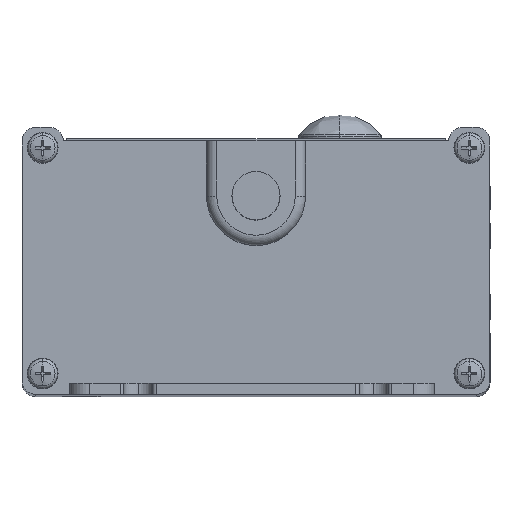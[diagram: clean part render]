
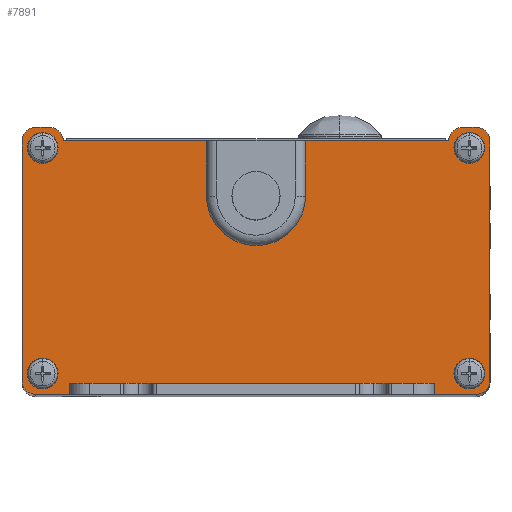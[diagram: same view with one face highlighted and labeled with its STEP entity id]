
A CAD part, top view. The second image highlights one B-rep face of the part: STEP entity #7891.
In plain terms, the highlighted planar face has unit normal (0, 0, 1).
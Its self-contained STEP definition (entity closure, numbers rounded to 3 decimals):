
#6936=DIRECTION('',(1.,0.,0.));
#6937=VECTOR('',#6936,22.25);
#6938=CARTESIAN_POINT('',(5.75,8.,1.6));
#6939=LINE('',#6938,#6937);
#6940=CARTESIAN_POINT('',(30.,8.,1.6));
#6941=DIRECTION('',(0.,0.,-1.));
#6942=DIRECTION('',(-1.,0.,0.));
#6943=AXIS2_PLACEMENT_3D('',#6940,#6941,#6942);
#6945=DIRECTION('',(1.,0.,0.));
#6946=VECTOR('',#6945,2.);
#6947=CARTESIAN_POINT('',(30.,10.,1.6));
#6948=LINE('',#6947,#6946);
#6949=CARTESIAN_POINT('',(32.,8.,1.6));
#6950=DIRECTION('',(0.,0.,-1.));
#6951=DIRECTION('',(0.,1.,0.));
#6952=AXIS2_PLACEMENT_3D('',#6949,#6950,#6951);
#6954=DIRECTION('',(0.,-1.,0.));
#6955=VECTOR('',#6954,34.8);
#6956=CARTESIAN_POINT('',(34.,8.,1.6));
#6957=LINE('',#6956,#6955);
#6958=CARTESIAN_POINT('',(32.,-26.8,1.6));
#6959=DIRECTION('',(0.,0.,-1.));
#6960=DIRECTION('',(1.,0.,0.));
#6961=AXIS2_PLACEMENT_3D('',#6958,#6959,#6960);
#6963=DIRECTION('',(-1.,0.,0.));
#6964=VECTOR('',#6963,6.125);
#6965=CARTESIAN_POINT('',(32.,-28.8,1.6));
#6966=LINE('',#6965,#6964);
#6967=DIRECTION('',(0.,1.,0.));
#6968=VECTOR('',#6967,1.6);
#6969=CARTESIAN_POINT('',(25.875,-28.8,1.6));
#6970=LINE('',#6969,#6968);
#6971=DIRECTION('',(-1.,0.,0.));
#6972=VECTOR('',#6971,53.);
#6973=CARTESIAN_POINT('',(25.875,-27.2,1.6));
#6974=LINE('',#6973,#6972);
#6975=DIRECTION('',(0.,-1.,0.));
#6976=VECTOR('',#6975,1.6);
#6977=CARTESIAN_POINT('',(-27.125,-27.2,1.6));
#6978=LINE('',#6977,#6976);
#6979=DIRECTION('',(-1.,0.,0.));
#6980=VECTOR('',#6979,4.875);
#6981=CARTESIAN_POINT('',(-27.125,-28.8,1.6));
#6982=LINE('',#6981,#6980);
#6983=CARTESIAN_POINT('',(-32.,-26.8,1.6));
#6984=DIRECTION('',(0.,0.,-1.));
#6985=DIRECTION('',(0.,-1.,0.));
#6986=AXIS2_PLACEMENT_3D('',#6983,#6984,#6985);
#6988=DIRECTION('',(0.,1.,0.));
#6989=VECTOR('',#6988,34.8);
#6990=CARTESIAN_POINT('',(-34.,-26.8,1.6));
#6991=LINE('',#6990,#6989);
#6992=CARTESIAN_POINT('',(-32.,8.,1.6));
#6993=DIRECTION('',(0.,0.,-1.));
#6994=DIRECTION('',(-1.,0.,0.));
#6995=AXIS2_PLACEMENT_3D('',#6992,#6993,#6994);
#6997=DIRECTION('',(1.,0.,0.));
#6998=VECTOR('',#6997,2.);
#6999=CARTESIAN_POINT('',(-32.,10.,1.6));
#7000=LINE('',#6999,#6998);
#7001=CARTESIAN_POINT('',(-30.,8.,1.6));
#7002=DIRECTION('',(0.,0.,-1.));
#7003=DIRECTION('',(0.,1.,0.));
#7004=AXIS2_PLACEMENT_3D('',#7001,#7002,#7003);
#7006=DIRECTION('',(1.,0.,0.));
#7007=VECTOR('',#7006,22.25);
#7008=CARTESIAN_POINT('',(-28.,8.,1.6));
#7009=LINE('',#7008,#7007);
#7010=CARTESIAN_POINT('',(-5.75,7.5,1.6));
#7011=DIRECTION('',(0.,0.,-1.));
#7012=DIRECTION('',(0.,1.,0.));
#7013=AXIS2_PLACEMENT_3D('',#7010,#7011,#7012);
#7015=DIRECTION('',(0.,-1.,0.));
#7016=VECTOR('',#7015,7.5);
#7017=CARTESIAN_POINT('',(-5.25,7.5,1.6));
#7018=LINE('',#7017,#7016);
#7019=CARTESIAN_POINT('',(0.,0.,1.6));
#7020=DIRECTION('',(0.,0.,1.));
#7021=DIRECTION('',(-1.,0.,0.));
#7022=AXIS2_PLACEMENT_3D('',#7019,#7020,#7021);
#7024=DIRECTION('',(0.,1.,0.));
#7025=VECTOR('',#7024,7.5);
#7026=CARTESIAN_POINT('',(5.25,0.,1.6));
#7027=LINE('',#7026,#7025);
#7028=CARTESIAN_POINT('',(5.75,7.5,1.6));
#7029=DIRECTION('',(0.,0.,-1.));
#7030=DIRECTION('',(-1.,0.,0.));
#7031=AXIS2_PLACEMENT_3D('',#7028,#7029,#7030);
#7033=CARTESIAN_POINT('',(31.,-25.8,1.6));
#7034=DIRECTION('',(0.,0.,1.));
#7035=DIRECTION('',(-1.,0.,0.));
#7036=AXIS2_PLACEMENT_3D('',#7033,#7034,#7035);
#7038=CARTESIAN_POINT('',(31.,-25.8,1.6));
#7039=DIRECTION('',(0.,0.,1.));
#7040=DIRECTION('',(1.,0.,0.));
#7041=AXIS2_PLACEMENT_3D('',#7038,#7039,#7040);
#7043=CARTESIAN_POINT('',(-31.,7.,1.6));
#7044=DIRECTION('',(0.,0.,1.));
#7045=DIRECTION('',(-1.,0.,0.));
#7046=AXIS2_PLACEMENT_3D('',#7043,#7044,#7045);
#7048=CARTESIAN_POINT('',(-31.,7.,1.6));
#7049=DIRECTION('',(0.,0.,1.));
#7050=DIRECTION('',(1.,0.,0.));
#7051=AXIS2_PLACEMENT_3D('',#7048,#7049,#7050);
#7053=CARTESIAN_POINT('',(-31.,-25.8,1.6));
#7054=DIRECTION('',(0.,0.,1.));
#7055=DIRECTION('',(-1.,0.,0.));
#7056=AXIS2_PLACEMENT_3D('',#7053,#7054,#7055);
#7058=CARTESIAN_POINT('',(-31.,-25.8,1.6));
#7059=DIRECTION('',(0.,0.,1.));
#7060=DIRECTION('',(1.,0.,0.));
#7061=AXIS2_PLACEMENT_3D('',#7058,#7059,#7060);
#7063=CARTESIAN_POINT('',(31.,7.,1.6));
#7064=DIRECTION('',(0.,0.,1.));
#7065=DIRECTION('',(-1.,0.,0.));
#7066=AXIS2_PLACEMENT_3D('',#7063,#7064,#7065);
#7068=CARTESIAN_POINT('',(31.,7.,1.6));
#7069=DIRECTION('',(0.,0.,1.));
#7070=DIRECTION('',(1.,0.,0.));
#7071=AXIS2_PLACEMENT_3D('',#7068,#7069,#7070);
#7540=CARTESIAN_POINT('',(25.875,-27.2,1.6));
#7541=CARTESIAN_POINT('',(-27.125,-27.2,1.6));
#7542=VERTEX_POINT('',#7540);
#7543=VERTEX_POINT('',#7541);
#7588=CARTESIAN_POINT('',(5.75,8.,1.6));
#7589=CARTESIAN_POINT('',(28.,8.,1.6));
#7590=VERTEX_POINT('',#7588);
#7591=VERTEX_POINT('',#7589);
#7592=CARTESIAN_POINT('',(30.,10.,1.6));
#7593=VERTEX_POINT('',#7592);
#7594=CARTESIAN_POINT('',(32.,10.,1.6));
#7595=VERTEX_POINT('',#7594);
#7596=CARTESIAN_POINT('',(34.,8.,1.6));
#7597=VERTEX_POINT('',#7596);
#7598=CARTESIAN_POINT('',(34.,-26.8,1.6));
#7599=VERTEX_POINT('',#7598);
#7600=CARTESIAN_POINT('',(32.,-28.8,1.6));
#7601=VERTEX_POINT('',#7600);
#7602=CARTESIAN_POINT('',(25.875,-28.8,1.6));
#7603=VERTEX_POINT('',#7602);
#7604=CARTESIAN_POINT('',(-27.125,-28.8,1.6));
#7605=VERTEX_POINT('',#7604);
#7606=CARTESIAN_POINT('',(-32.,-28.8,1.6));
#7607=VERTEX_POINT('',#7606);
#7608=CARTESIAN_POINT('',(-34.,-26.8,1.6));
#7609=VERTEX_POINT('',#7608);
#7610=CARTESIAN_POINT('',(-34.,8.,1.6));
#7611=VERTEX_POINT('',#7610);
#7612=CARTESIAN_POINT('',(-32.,10.,1.6));
#7613=VERTEX_POINT('',#7612);
#7614=CARTESIAN_POINT('',(-30.,10.,1.6));
#7615=VERTEX_POINT('',#7614);
#7616=CARTESIAN_POINT('',(-28.,8.,1.6));
#7617=VERTEX_POINT('',#7616);
#7618=CARTESIAN_POINT('',(-5.75,8.,1.6));
#7619=VERTEX_POINT('',#7618);
#7620=CARTESIAN_POINT('',(-5.25,7.5,1.6));
#7621=VERTEX_POINT('',#7620);
#7622=CARTESIAN_POINT('',(-5.25,0.,1.6));
#7623=VERTEX_POINT('',#7622);
#7624=CARTESIAN_POINT('',(5.25,0.,1.6));
#7625=VERTEX_POINT('',#7624);
#7626=CARTESIAN_POINT('',(5.25,7.5,1.6));
#7627=VERTEX_POINT('',#7626);
#7628=CARTESIAN_POINT('',(29.5,-25.8,1.6));
#7629=CARTESIAN_POINT('',(32.5,-25.8,1.6));
#7630=VERTEX_POINT('',#7628);
#7631=VERTEX_POINT('',#7629);
#7632=CARTESIAN_POINT('',(-32.5,7.,1.6));
#7633=CARTESIAN_POINT('',(-29.5,7.,1.6));
#7634=VERTEX_POINT('',#7632);
#7635=VERTEX_POINT('',#7633);
#7636=CARTESIAN_POINT('',(-32.5,-25.8,1.6));
#7637=CARTESIAN_POINT('',(-29.5,-25.8,1.6));
#7638=VERTEX_POINT('',#7636);
#7639=VERTEX_POINT('',#7637);
#7640=CARTESIAN_POINT('',(29.5,7.,1.6));
#7641=CARTESIAN_POINT('',(32.5,7.,1.6));
#7642=VERTEX_POINT('',#7640);
#7643=VERTEX_POINT('',#7641);
#7817=CARTESIAN_POINT('',(-32.,8.,1.6));
#7818=DIRECTION('',(0.,0.,-1.));
#7819=DIRECTION('',(-1.,0.,0.));
#7820=AXIS2_PLACEMENT_3D('',#7817,#7818,#7819);
#7821=PLANE('',#7820);
#7823=ORIENTED_EDGE('',*,*,#7822,.T.);
#7825=ORIENTED_EDGE('',*,*,#7824,.T.);
#7827=ORIENTED_EDGE('',*,*,#7826,.T.);
#7829=ORIENTED_EDGE('',*,*,#7828,.T.);
#7831=ORIENTED_EDGE('',*,*,#7830,.T.);
#7833=ORIENTED_EDGE('',*,*,#7832,.T.);
#7835=ORIENTED_EDGE('',*,*,#7834,.T.);
#7837=ORIENTED_EDGE('',*,*,#7836,.T.);
#7838=ORIENTED_EDGE('',*,*,#7761,.T.);
#7840=ORIENTED_EDGE('',*,*,#7839,.T.);
#7842=ORIENTED_EDGE('',*,*,#7841,.T.);
#7844=ORIENTED_EDGE('',*,*,#7843,.T.);
#7846=ORIENTED_EDGE('',*,*,#7845,.T.);
#7848=ORIENTED_EDGE('',*,*,#7847,.T.);
#7850=ORIENTED_EDGE('',*,*,#7849,.T.);
#7852=ORIENTED_EDGE('',*,*,#7851,.T.);
#7854=ORIENTED_EDGE('',*,*,#7853,.T.);
#7856=ORIENTED_EDGE('',*,*,#7855,.T.);
#7858=ORIENTED_EDGE('',*,*,#7857,.T.);
#7860=ORIENTED_EDGE('',*,*,#7859,.T.);
#7862=ORIENTED_EDGE('',*,*,#7861,.T.);
#7864=ORIENTED_EDGE('',*,*,#7863,.T.);
#7865=EDGE_LOOP('',(#7823,#7825,#7827,#7829,#7831,#7833,#7835,#7837,#7838,#7840,
#7842,#7844,#7846,#7848,#7850,#7852,#7854,#7856,#7858,#7860,#7862,#7864));
#7866=FACE_OUTER_BOUND('',#7865,.F.);
#7868=ORIENTED_EDGE('',*,*,#7867,.T.);
#7870=ORIENTED_EDGE('',*,*,#7869,.T.);
#7871=EDGE_LOOP('',(#7868,#7870));
#7872=FACE_BOUND('',#7871,.F.);
#7874=ORIENTED_EDGE('',*,*,#7873,.T.);
#7876=ORIENTED_EDGE('',*,*,#7875,.T.);
#7877=EDGE_LOOP('',(#7874,#7876));
#7878=FACE_BOUND('',#7877,.F.);
#7880=ORIENTED_EDGE('',*,*,#7879,.T.);
#7882=ORIENTED_EDGE('',*,*,#7881,.T.);
#7883=EDGE_LOOP('',(#7880,#7882));
#7884=FACE_BOUND('',#7883,.F.);
#7886=ORIENTED_EDGE('',*,*,#7885,.T.);
#7888=ORIENTED_EDGE('',*,*,#7887,.T.);
#7889=EDGE_LOOP('',(#7886,#7888));
#7890=FACE_BOUND('',#7889,.F.);
#6944=CIRCLE('',#6943,2.);
#6953=CIRCLE('',#6952,2.);
#6962=CIRCLE('',#6961,2.);
#6987=CIRCLE('',#6986,2.);
#6996=CIRCLE('',#6995,2.);
#7005=CIRCLE('',#7004,2.);
#7014=CIRCLE('',#7013,0.5);
#7023=CIRCLE('',#7022,5.25);
#7032=CIRCLE('',#7031,0.5);
#7037=CIRCLE('',#7036,1.5);
#7042=CIRCLE('',#7041,1.5);
#7047=CIRCLE('',#7046,1.5);
#7052=CIRCLE('',#7051,1.5);
#7057=CIRCLE('',#7056,1.5);
#7062=CIRCLE('',#7061,1.5);
#7067=CIRCLE('',#7066,1.5);
#7072=CIRCLE('',#7071,1.5);
#7761=EDGE_CURVE('',#7542,#7543,#6974,.T.);
#7822=EDGE_CURVE('',#7590,#7591,#6939,.T.);
#7824=EDGE_CURVE('',#7591,#7593,#6944,.T.);
#7826=EDGE_CURVE('',#7593,#7595,#6948,.T.);
#7828=EDGE_CURVE('',#7595,#7597,#6953,.T.);
#7830=EDGE_CURVE('',#7597,#7599,#6957,.T.);
#7832=EDGE_CURVE('',#7599,#7601,#6962,.T.);
#7834=EDGE_CURVE('',#7601,#7603,#6966,.T.);
#7836=EDGE_CURVE('',#7603,#7542,#6970,.T.);
#7839=EDGE_CURVE('',#7543,#7605,#6978,.T.);
#7841=EDGE_CURVE('',#7605,#7607,#6982,.T.);
#7843=EDGE_CURVE('',#7607,#7609,#6987,.T.);
#7845=EDGE_CURVE('',#7609,#7611,#6991,.T.);
#7847=EDGE_CURVE('',#7611,#7613,#6996,.T.);
#7849=EDGE_CURVE('',#7613,#7615,#7000,.T.);
#7851=EDGE_CURVE('',#7615,#7617,#7005,.T.);
#7853=EDGE_CURVE('',#7617,#7619,#7009,.T.);
#7855=EDGE_CURVE('',#7619,#7621,#7014,.T.);
#7857=EDGE_CURVE('',#7621,#7623,#7018,.T.);
#7859=EDGE_CURVE('',#7623,#7625,#7023,.T.);
#7861=EDGE_CURVE('',#7625,#7627,#7027,.T.);
#7863=EDGE_CURVE('',#7627,#7590,#7032,.T.);
#7867=EDGE_CURVE('',#7630,#7631,#7037,.T.);
#7869=EDGE_CURVE('',#7631,#7630,#7042,.T.);
#7873=EDGE_CURVE('',#7634,#7635,#7047,.T.);
#7875=EDGE_CURVE('',#7635,#7634,#7052,.T.);
#7879=EDGE_CURVE('',#7638,#7639,#7057,.T.);
#7881=EDGE_CURVE('',#7639,#7638,#7062,.T.);
#7885=EDGE_CURVE('',#7642,#7643,#7067,.T.);
#7887=EDGE_CURVE('',#7643,#7642,#7072,.T.);
#7891=ADVANCED_FACE('',(#7866,#7872,#7878,#7884,#7890),#7821,.F.);
